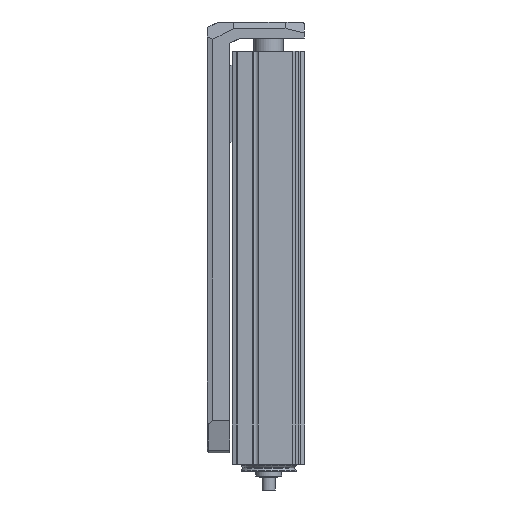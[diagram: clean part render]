
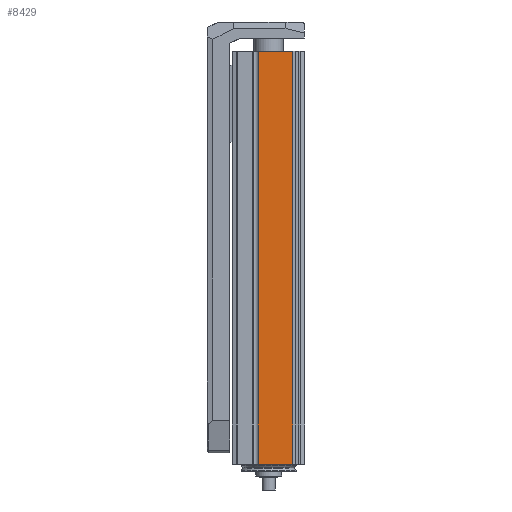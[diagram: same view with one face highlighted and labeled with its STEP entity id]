
A CAD part, left-side view. The second image highlights one B-rep face of the part: STEP entity #8429.
In plain terms, the highlighted planar face has unit normal (-1, 0, 0) as drawn and (0, 0, 1) by its records, which use the part's own axes.
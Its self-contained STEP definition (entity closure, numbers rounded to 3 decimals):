
#773=LINE('',#13561,#1303);
#789=LINE('',#13607,#1319);
#790=LINE('',#13611,#1320);
#791=LINE('',#13613,#1321);
#1303=VECTOR('',#10859,1000.);
#1319=VECTOR('',#10905,1000.);
#1320=VECTOR('',#10910,1000.);
#1321=VECTOR('',#10911,1000.);
#2647=ORIENTED_EDGE('',*,*,#4217,.T.);
#2648=ORIENTED_EDGE('',*,*,#4242,.F.);
#2649=ORIENTED_EDGE('',*,*,#4243,.F.);
#2650=ORIENTED_EDGE('',*,*,#4240,.T.);
#4217=EDGE_CURVE('',#5077,#5076,#773,.T.);
#4240=EDGE_CURVE('',#5092,#5077,#789,.T.);
#4242=EDGE_CURVE('',#5093,#5076,#790,.T.);
#4243=EDGE_CURVE('',#5092,#5093,#791,.T.);
#5076=VERTEX_POINT('',#13560);
#5077=VERTEX_POINT('',#13562);
#5092=VERTEX_POINT('',#13608);
#5093=VERTEX_POINT('',#13612);
#6009=EDGE_LOOP('',(#2647,#2648,#2649,#2650));
#6621=FACE_BOUND('',#6009,.T.);
#6947=PLANE('',#9134);
#8429=ADVANCED_FACE('',(#6621),#6947,.F.);
#9134=AXIS2_PLACEMENT_3D('',#13610,#10908,#10909);
#10859=DIRECTION('',(0.,-1.,0.));
#10905=DIRECTION('',(-1.,0.,0.));
#10908=DIRECTION('',(0.,0.,-1.));
#10909=DIRECTION('',(-1.,0.,0.));
#10910=DIRECTION('',(-1.,0.,0.));
#10911=DIRECTION('',(0.,-1.,0.));
#13560=CARTESIAN_POINT('',(0.,-6.3,22.5));
#13561=CARTESIAN_POINT('',(0.,14.82,22.5));
#13562=CARTESIAN_POINT('',(0.,14.82,22.5));
#13607=CARTESIAN_POINT('',(255.,14.82,22.5));
#13608=CARTESIAN_POINT('',(255.,14.82,22.5));
#13610=CARTESIAN_POINT('',(255.,14.82,22.5));
#13611=CARTESIAN_POINT('',(255.,-6.3,22.5));
#13612=CARTESIAN_POINT('',(255.,-6.3,22.5));
#13613=CARTESIAN_POINT('',(255.,14.82,22.5));
